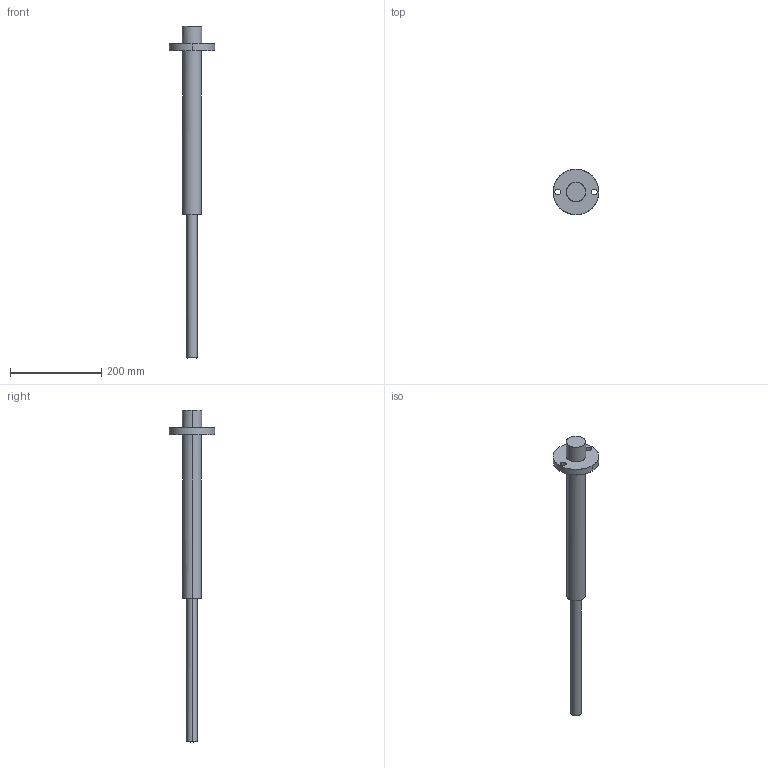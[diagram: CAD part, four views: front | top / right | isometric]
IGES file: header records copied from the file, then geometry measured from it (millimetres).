
Global section: file name: E:\UnigraphicsGraphicData\MISUMI_PRESS-PARTS\IGES\3d_papu300-360_01700_r00.igs; native system: NX V5.0; preprocessor: UGS NX IGES V5.0; author: MISUMI; date: 20110105.162226; units: millimetre
Bounding box: 100 x 100 x 729 mm (x, y, z)
Surface area: 98771.2 mm2 (no closed solid volume)
Topology: 0 solids, 0 shells, 21 faces, 232 edges, 232 vertices
Faces by surface type: bspline 21
